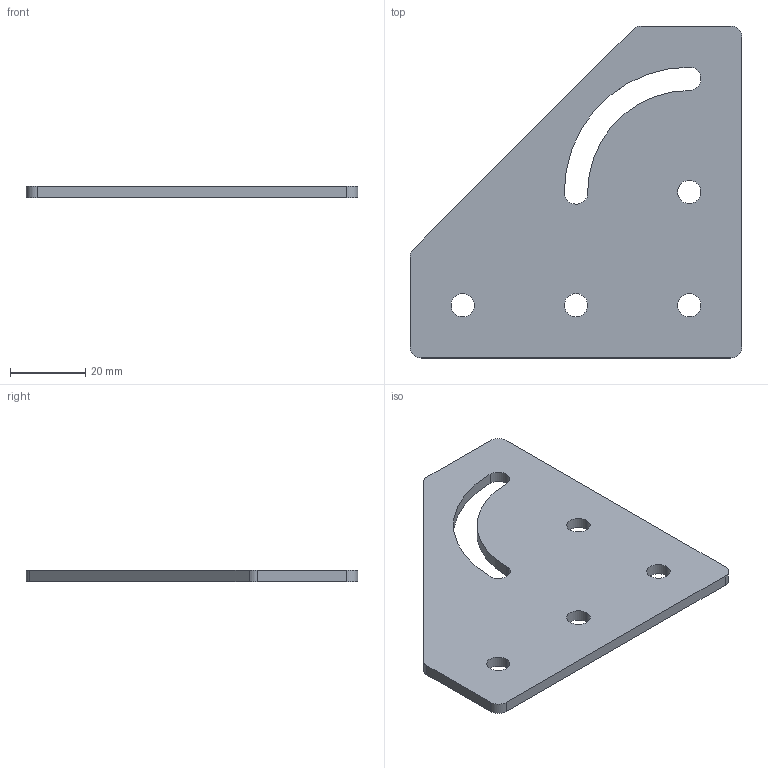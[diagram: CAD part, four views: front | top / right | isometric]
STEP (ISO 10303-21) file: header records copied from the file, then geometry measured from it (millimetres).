
FILE_DESCRIPTION (( 'STEP AP214' ), '1' );
FILE_NAME ('deg90s30.STEP', '2018-03-07T09:25:09', ( '' ), ( '' ), 'SwSTEP 2.0', 'SolidWorks 2014', '' );
FILE_SCHEMA (( 'AUTOMOTIVE_DESIGN' ));
Length unit declared in the file: millimetre
Products named in the file (2): deg90s30
Bounding box: 88 x 88 x 3 mm (x, y, z)
Volume: 16480.8 mm3; surface area: 12501.4 mm2
Topology: 1 solids, 1 shells, 26 faces, 72 edges, 48 vertices
Faces by surface type: cylinder 19, plane 7
Entity records: 923 total; most frequent: DIRECTION 166, CARTESIAN_POINT 148, ORIENTED_EDGE 144, EDGE_CURVE 72, AXIS2_PLACEMENT_3D 66, VERTEX_POINT 48, CIRCLE 38, EDGE_LOOP 36
